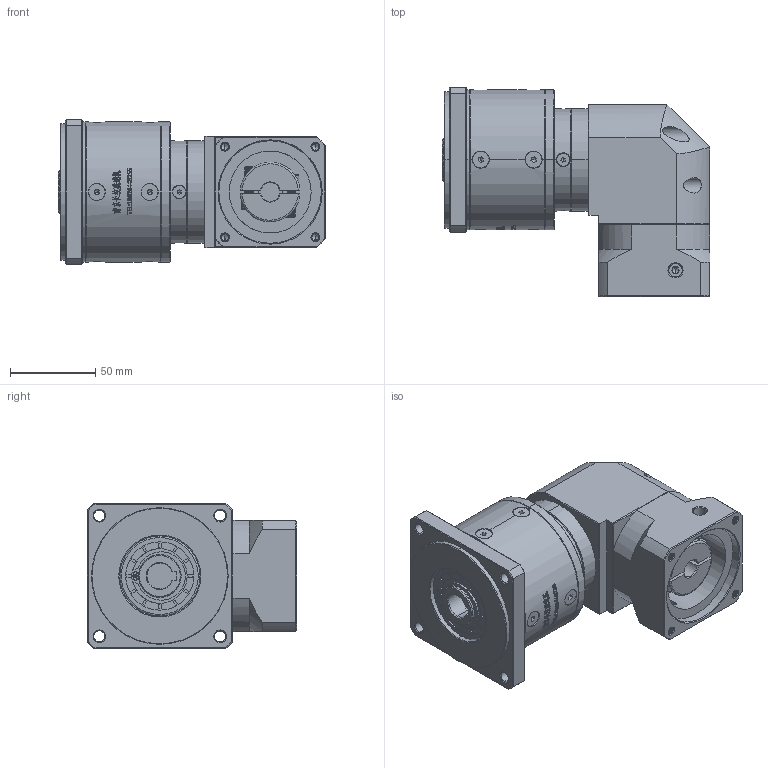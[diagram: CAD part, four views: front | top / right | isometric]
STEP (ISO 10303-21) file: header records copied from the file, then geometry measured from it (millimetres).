
FILE_DESCRIPTION (( 'STEP AP214' ), '1' );
FILE_NAME ('ZFR80-K15-L2-11-60-75-M5.step', '2022-05-08T14:58:10', ( '' ), ( 'Microsoft' ), 'SwSTEP 2.0', 'SolidWorks 2016', '' );
FILE_SCHEMA (( 'AUTOMOTIVE_DESIGN' ));
Length unit declared in the file: millimetre
Products named in the file (1): ZFR80-K15-L2-11-60-75-M5
Bounding box: 156.5 x 122.7 x 85 mm (x, y, z)
Volume: 782905.2 mm3; surface area: 102687.9 mm2
Topology: 17 solids, 18 shells, 3028 faces, 8058 edges, 5186 vertices
Faces by surface type: plane 1594, bspline 610, cylinder 441, cone 375, torus 8
Entity records: 159711 total; most frequent: CARTESIAN_POINT 56301, ORIENTED_EDGE 16028, DIRECTION 12197, EDGE_CURVE 8014, VERTEX_POINT 5186, VECTOR 4945, LINE 4945, AXIS2_PLACEMENT_3D 3626
